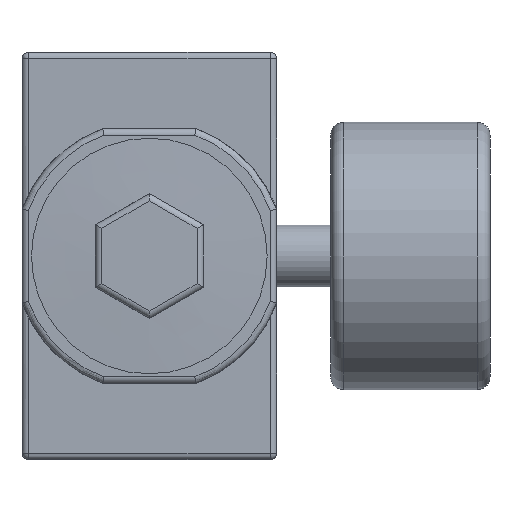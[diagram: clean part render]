
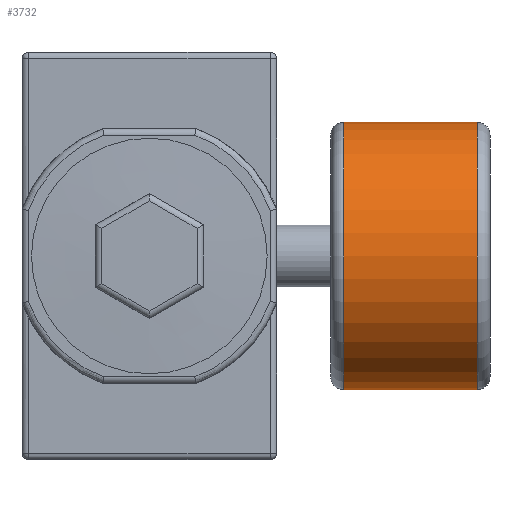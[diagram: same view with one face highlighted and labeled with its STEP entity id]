
A CAD part, front view. The second image highlights one B-rep face of the part: STEP entity #3732.
In plain terms, the highlighted cylindrical face has radius 21 mm (diameter 42 mm), a full revolution.
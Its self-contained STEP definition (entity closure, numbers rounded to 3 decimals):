
#400=LINE('',#6746,#709);
#709=VECTOR('',#5319,21.);
#784=CYLINDRICAL_SURFACE('',#4174,21.);
#1000=FACE_OUTER_BOUND('',#1230,.T.);
#1230=EDGE_LOOP('',(#3390,#3391,#3392,#3393));
#1428=CIRCLE('',#4173,21.);
#1429=CIRCLE('',#4175,21.);
#1771=VERTEX_POINT('',#6741);
#1772=VERTEX_POINT('',#6745);
#2311=EDGE_CURVE('',#1771,#1771,#1428,.T.);
#2312=EDGE_CURVE('',#1771,#1772,#400,.T.);
#2313=EDGE_CURVE('',#1772,#1772,#1429,.T.);
#3390=ORIENTED_EDGE('',*,*,#2311,.F.);
#3391=ORIENTED_EDGE('',*,*,#2312,.T.);
#3392=ORIENTED_EDGE('',*,*,#2313,.T.);
#3393=ORIENTED_EDGE('',*,*,#2312,.F.);
#3732=ADVANCED_FACE('',(#1000),#784,.T.);
#4173=AXIS2_PLACEMENT_3D('',#6743,#5315,#5316);
#4174=AXIS2_PLACEMENT_3D('',#6744,#5317,#5318);
#4175=AXIS2_PLACEMENT_3D('',#6747,#5320,#5321);
#5315=DIRECTION('center_axis',(1.,0.,0.));
#5316=DIRECTION('ref_axis',(0.,0.,-1.));
#5317=DIRECTION('center_axis',(1.,0.,0.));
#5318=DIRECTION('ref_axis',(0.,0.,-1.));
#5319=DIRECTION('',(-1.,0.,0.));
#5320=DIRECTION('center_axis',(1.,0.,0.));
#5321=DIRECTION('ref_axis',(0.,0.,-1.));
#6741=CARTESIAN_POINT('',(71.5,10.5,-11.));
#6743=CARTESIAN_POINT('Origin',(71.5,10.5,-32.));
#6744=CARTESIAN_POINT('Origin',(73.5,10.5,-32.));
#6745=CARTESIAN_POINT('',(50.5,10.5,-11.));
#6746=CARTESIAN_POINT('',(73.5,10.5,-11.));
#6747=CARTESIAN_POINT('Origin',(50.5,10.5,-32.));
